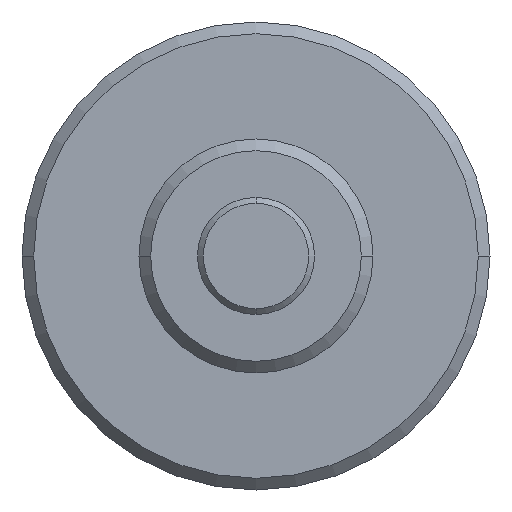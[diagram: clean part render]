
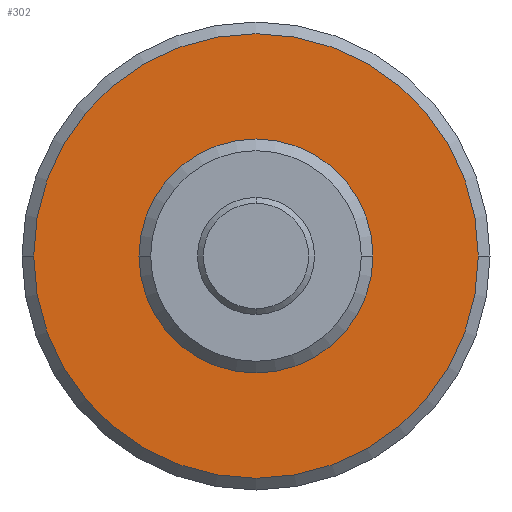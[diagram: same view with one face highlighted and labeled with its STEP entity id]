
A CAD part, left-side view. The second image highlights one B-rep face of the part: STEP entity #302.
In plain terms, the highlighted planar face has unit normal (-1, 0, 0).
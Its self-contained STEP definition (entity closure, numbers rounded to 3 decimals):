
#56=CARTESIAN_POINT('',(19.5,0.,0.));
#57=DIRECTION('',(1.,0.,0.));
#58=DIRECTION('',(0.,1.,0.));
#59=AXIS2_PLACEMENT_3D('',#56,#57,#58);
#70=CARTESIAN_POINT('',(19.5,0.,0.));
#71=DIRECTION('',(1.,0.,0.));
#72=DIRECTION('',(0.,-1.,0.));
#73=AXIS2_PLACEMENT_3D('',#70,#71,#72);
#75=CARTESIAN_POINT('',(19.5,0.,
0.));
#76=DIRECTION('',(-1.,0.,0.));
#77=DIRECTION('',(0.,1.,0.));
#78=AXIS2_PLACEMENT_3D('',#75,#76,#77);
#80=CARTESIAN_POINT('',(19.5,0.,
0.));
#81=DIRECTION('',(-1.,0.,0.));
#82=DIRECTION('',(0.,-1.,0.));
#83=AXIS2_PLACEMENT_3D('',#80,#81,#82);
#147=CARTESIAN_POINT('',(19.5,-10.,0.));
#148=CARTESIAN_POINT('',(19.5,10.,0.));
#149=VERTEX_POINT('',#147);
#150=VERTEX_POINT('',#148);
#159=CARTESIAN_POINT('',(19.5,19.,0.));
#160=CARTESIAN_POINT('',(19.5,-19.,0.));
#161=VERTEX_POINT('',#159);
#162=VERTEX_POINT('',#160);
#287=CARTESIAN_POINT('',(19.5,0.,0.));
#288=DIRECTION('',(1.,0.,0.));
#289=DIRECTION('',(0.,-1.,0.));
#290=AXIS2_PLACEMENT_3D('',#287,#288,#289);
#291=PLANE('',#290);
#293=ORIENTED_EDGE('',*,*,#292,.F.);
#295=ORIENTED_EDGE('',*,*,#294,.F.);
#296=EDGE_LOOP('',(#293,#295));
#297=FACE_OUTER_BOUND('',#296,.F.);
#298=ORIENTED_EDGE('',*,*,#281,.F.);
#299=ORIENTED_EDGE('',*,*,#267,.F.);
#300=EDGE_LOOP('',(#298,#299));
#301=FACE_BOUND('',#300,.F.);
#302=ADVANCED_FACE('',(#297,#301),#291,.F.);
#60=CIRCLE('',#59,10.);
#74=CIRCLE('',#73,10.);
#79=CIRCLE('',#78,19.);
#84=CIRCLE('',#83,19.);
#267=EDGE_CURVE('',#150,#149,#60,.T.);
#281=EDGE_CURVE('',#149,#150,#74,.T.);
#292=EDGE_CURVE('',#161,#162,#79,.T.);
#294=EDGE_CURVE('',#162,#161,#84,.T.);
